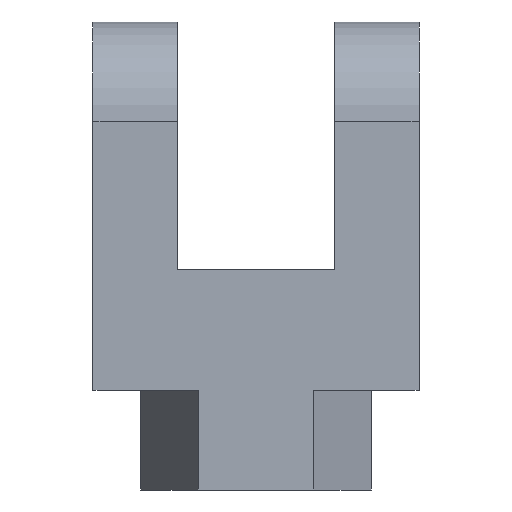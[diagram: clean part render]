
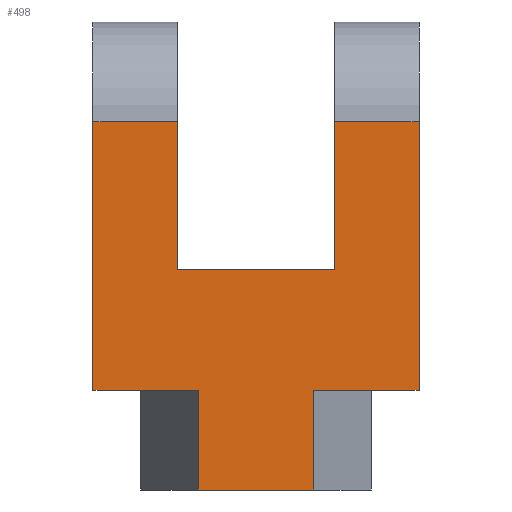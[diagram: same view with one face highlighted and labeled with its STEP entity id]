
A CAD part, left-side view. The second image highlights one B-rep face of the part: STEP entity #498.
In plain terms, the highlighted planar face has unit normal (-1, 0, 0).
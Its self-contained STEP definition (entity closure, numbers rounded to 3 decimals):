
#60=ORIENTED_EDGE('',*,*,#153,.T.);
#61=ORIENTED_EDGE('',*,*,#154,.T.);
#62=ORIENTED_EDGE('',*,*,#147,.F.);
#63=ORIENTED_EDGE('',*,*,#155,.T.);
#64=ORIENTED_EDGE('',*,*,#133,.T.);
#65=ORIENTED_EDGE('',*,*,#156,.F.);
#66=ORIENTED_EDGE('',*,*,#157,.F.);
#67=ORIENTED_EDGE('',*,*,#158,.T.);
#68=ORIENTED_EDGE('',*,*,#159,.T.);
#69=ORIENTED_EDGE('',*,*,#160,.F.);
#70=ORIENTED_EDGE('',*,*,#151,.F.);
#71=ORIENTED_EDGE('',*,*,#161,.T.);
#133=EDGE_CURVE('',#182,#181,#215,.T.);
#147=EDGE_CURVE('',#194,#195,#229,.T.);
#151=EDGE_CURVE('',#196,#197,#230,.T.);
#153=EDGE_CURVE('',#198,#199,#231,.T.);
#154=EDGE_CURVE('',#199,#195,#232,.T.);
#155=EDGE_CURVE('',#194,#182,#233,.T.);
#156=EDGE_CURVE('',#200,#181,#234,.T.);
#157=EDGE_CURVE('',#201,#200,#235,.T.);
#158=EDGE_CURVE('',#201,#202,#236,.T.);
#159=EDGE_CURVE('',#202,#203,#237,.T.);
#160=EDGE_CURVE('',#197,#203,#238,.T.);
#161=EDGE_CURVE('',#196,#198,#239,.T.);
#181=VERTEX_POINT('',#651);
#182=VERTEX_POINT('',#653);
#194=VERTEX_POINT('',#681);
#195=VERTEX_POINT('',#682);
#196=VERTEX_POINT('',#687);
#197=VERTEX_POINT('',#689);
#198=VERTEX_POINT('',#693);
#199=VERTEX_POINT('',#694);
#200=VERTEX_POINT('',#698);
#201=VERTEX_POINT('',#700);
#202=VERTEX_POINT('',#702);
#203=VERTEX_POINT('',#704);
#215=LINE('',#652,#253);
#229=LINE('',#680,#267);
#230=LINE('',#688,#268);
#231=LINE('',#692,#269);
#232=LINE('',#695,#270);
#233=LINE('',#696,#271);
#234=LINE('',#697,#272);
#235=LINE('',#699,#273);
#236=LINE('',#701,#274);
#237=LINE('',#703,#275);
#238=LINE('',#705,#276);
#239=LINE('',#706,#277);
#253=VECTOR('',#553,1000.);
#267=VECTOR('',#571,1000.);
#268=VECTOR('',#580,1000.);
#269=VECTOR('',#585,1000.);
#270=VECTOR('',#586,1000.);
#271=VECTOR('',#587,1000.);
#272=VECTOR('',#588,1000.);
#273=VECTOR('',#589,1000.);
#274=VECTOR('',#590,1000.);
#275=VECTOR('',#591,1000.);
#276=VECTOR('',#592,1000.);
#277=VECTOR('',#593,1000.);
#293=EDGE_LOOP('',(#60,#61,#62,#63,#64,#65,#66,#67,#68,#69,#70,#71));
#321=FACE_BOUND('',#293,.T.);
#347=PLANE('',#526);
#498=ADVANCED_FACE('',(#321),#347,.T.);
#526=AXIS2_PLACEMENT_3D('',#691,#583,#584);
#553=DIRECTION('',(0.,-1.,0.));
#571=DIRECTION('',(0.,-1.,0.));
#580=DIRECTION('',(0.,-1.,0.));
#583=DIRECTION('',(-1.,0.,0.));
#584=DIRECTION('',(0.,0.,1.));
#585=DIRECTION('',(0.,1.,0.));
#586=DIRECTION('',(0.,0.,1.));
#587=DIRECTION('',(0.,0.,-1.));
#588=DIRECTION('',(0.,0.,1.));
#589=DIRECTION('',(0.,1.,0.));
#590=DIRECTION('',(0.,0.,1.));
#591=DIRECTION('',(0.,-1.,0.));
#592=DIRECTION('',(0.,0.,-1.));
#593=DIRECTION('',(0.,0.,-1.));
#651=CARTESIAN_POINT('',(-19.,10.97,-51.));
#652=CARTESIAN_POINT('',(-19.,31.,-51.));
#653=CARTESIAN_POINT('',(-19.,31.,-51.));
#680=CARTESIAN_POINT('',(-19.,31.,0.));
#681=CARTESIAN_POINT('',(-19.,31.,0.));
#682=CARTESIAN_POINT('',(-19.,15.,0.));
#687=CARTESIAN_POINT('',(-19.,-15.,0.));
#688=CARTESIAN_POINT('',(-19.,31.,0.));
#689=CARTESIAN_POINT('',(-19.,-31.,0.));
#691=CARTESIAN_POINT('',(-19.,31.,-51.));
#692=CARTESIAN_POINT('',(-19.,31.,-28.));
#693=CARTESIAN_POINT('',(-19.,-15.,-28.));
#694=CARTESIAN_POINT('',(-19.,15.,-28.));
#695=CARTESIAN_POINT('',(-19.,15.,-51.));
#696=CARTESIAN_POINT('',(-19.,31.,-51.));
#697=CARTESIAN_POINT('',(-19.,10.97,-70.));
#698=CARTESIAN_POINT('',(-19.,10.97,-70.));
#699=CARTESIAN_POINT('',(-19.,-10.97,-70.));
#700=CARTESIAN_POINT('',(-19.,-10.97,-70.));
#701=CARTESIAN_POINT('',(-19.,-10.97,-70.));
#702=CARTESIAN_POINT('',(-19.,-10.97,-51.));
#703=CARTESIAN_POINT('',(-19.,31.,-51.));
#704=CARTESIAN_POINT('',(-19.,-31.,-51.));
#705=CARTESIAN_POINT('',(-19.,-31.,-51.));
#706=CARTESIAN_POINT('',(-19.,-15.,-51.));
